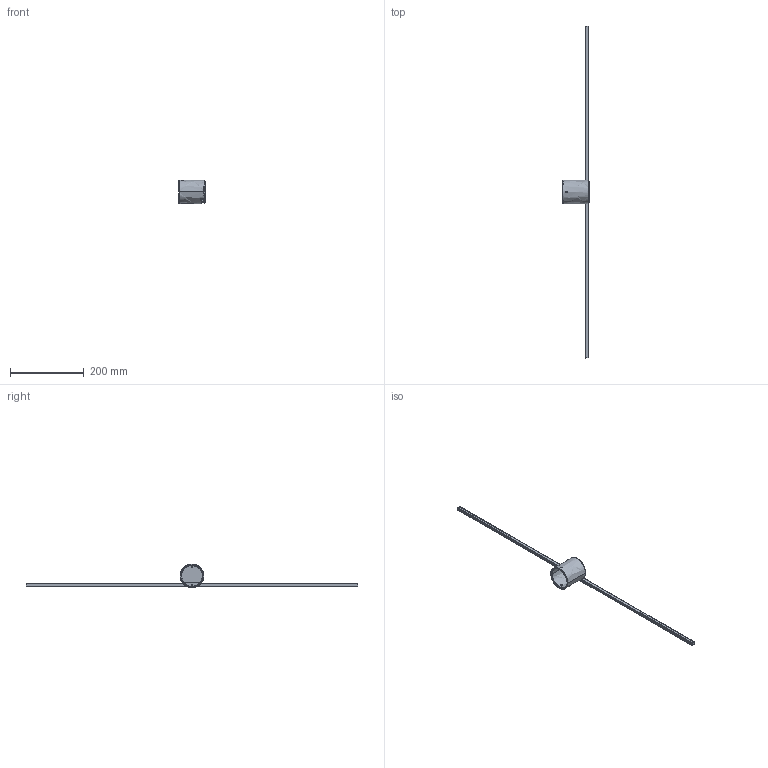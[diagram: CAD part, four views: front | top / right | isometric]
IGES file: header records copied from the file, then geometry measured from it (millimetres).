
Start section: SolidWorks IGES file using NURBS representation for surfaces
Global section: file name: Z:\Modele 3D_WWW\PIN-LED\PIN-LED-M-8128\PIN-LED-M-8128.IGS; native system: SolidWorks 2021; preprocessor: SolidWorks 2021; author: gabriela.tworek; date: 210930.120129; units: millimetre
Bounding box: 72 x 901.2 x 64.31 mm (x, y, z)
Surface area: 99521.2 mm2 (no closed solid volume)
Topology: 0 solids, 0 shells, 200 faces, 2610 edges, 2594 vertices
Faces by surface type: bspline 200
